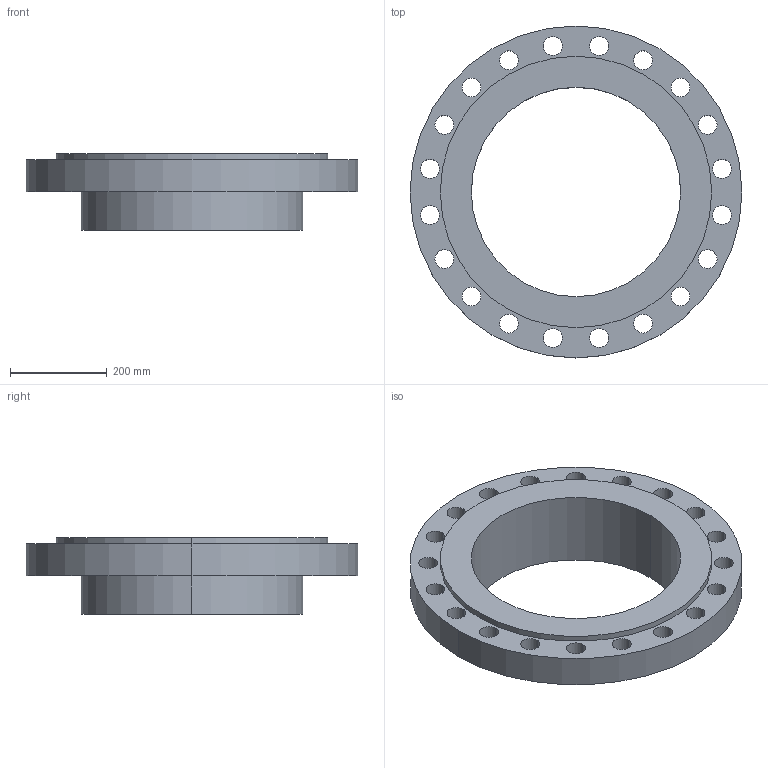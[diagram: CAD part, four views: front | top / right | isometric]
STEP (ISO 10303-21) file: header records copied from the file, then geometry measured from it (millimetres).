
FILE_DESCRIPTION (( 'STEP AP214' ), '1' );
FILE_NAME ('PN40 DN450 Type 02 in 33 - (Type A Face).STEP', '2018-12-29T05:32:22', ( '' ), ( '' ), 'SwSTEP 2.0', 'SolidWorks 2019', '' );
FILE_SCHEMA (( 'AUTOMOTIVE_DESIGN' ));
Length unit declared in the file: millimetre
Products named in the file (1): PN40 DN450 Type 02 in 33 - (Type A Face)
Bounding box: 685 x 685 x 157.5 mm (x, y, z)
Volume: 15217718.5 mm3; surface area: 1377229.9 mm2
Topology: 2 solids, 2 shells, 59 faces, 158 edges, 104 vertices
Faces by surface type: cylinder 50, plane 5, cone 4
Entity records: 2035 total; most frequent: DIRECTION 382, CARTESIAN_POINT 322, ORIENTED_EDGE 316, AXIS2_PLACEMENT_3D 164, EDGE_CURVE 158, CIRCLE 104, VERTEX_POINT 104, EDGE_LOOP 104
